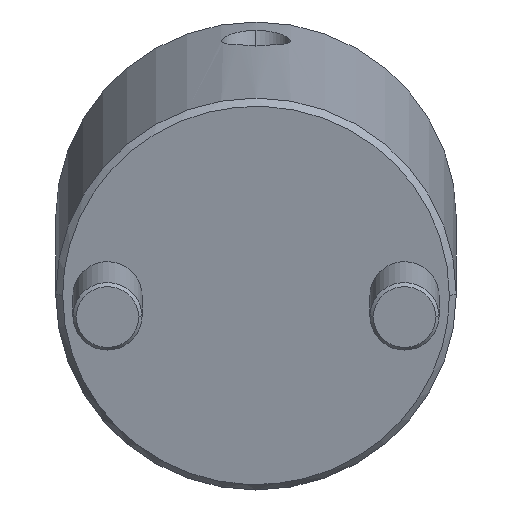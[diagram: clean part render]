
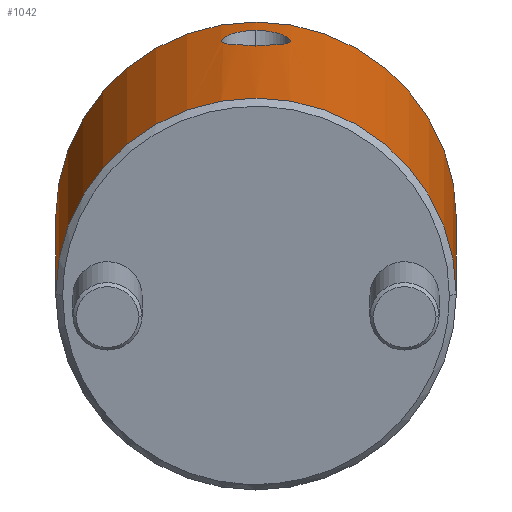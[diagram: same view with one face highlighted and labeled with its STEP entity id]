
A CAD part, front view. The second image highlights one B-rep face of the part: STEP entity #1042.
In plain terms, the highlighted cylindrical face has radius 29 mm (diameter 58 mm), a partial arc.
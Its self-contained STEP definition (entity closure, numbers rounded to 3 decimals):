
#781=CARTESIAN_POINT('Vertex',(0.,29.,1.)) ;
#784=CARTESIAN_POINT('Axis2P3D Location',(0.,0.,1.)) ;
#788=CARTESIAN_POINT('Vertex',(0.,-29.,1.)) ;
#940=CARTESIAN_POINT('Axis2P3D Location',(0.,0.,-2.75)) ;
#945=CARTESIAN_POINT('Line Origine',(0.,29.,-2.75)) ;
#949=CARTESIAN_POINT('Vertex',(0.,29.,54.)) ;
#952=CARTESIAN_POINT('Axis2P3D Location',(0.,0.,54.)) ;
#956=CARTESIAN_POINT('Vertex',(0.,-29.,54.)) ;
#959=CARTESIAN_POINT('Line Origine',(0.,-29.,-2.75)) ;
#971=CARTESIAN_POINT('Control Point',(29.,0.,48.127)) ;
#972=CARTESIAN_POINT('Control Point',(29.,0.424,48.127)) ;
#973=CARTESIAN_POINT('Control Point',(28.992,0.845,48.08)) ;
#974=CARTESIAN_POINT('Control Point',(28.977,1.265,47.984)) ;
#975=CARTESIAN_POINT('Control Point',(28.943,1.873,47.773)) ;
#976=CARTESIAN_POINT('Control Point',(28.898,2.443,47.461)) ;
#977=CARTESIAN_POINT('Control Point',(28.881,2.629,47.346)) ;
#978=CARTESIAN_POINT('Control Point',(28.847,2.99,47.095)) ;
#979=CARTESIAN_POINT('Control Point',(28.81,3.323,46.804)) ;
#980=CARTESIAN_POINT('Control Point',(28.791,3.482,46.649)) ;
#981=CARTESIAN_POINT('Control Point',(28.714,4.093,45.987)) ;
#982=CARTESIAN_POINT('Control Point',(28.642,4.556,45.204)) ;
#983=CARTESIAN_POINT('Control Point',(28.6,4.804,44.567)) ;
#984=CARTESIAN_POINT('Control Point',(28.557,5.048,43.461)) ;
#985=CARTESIAN_POINT('Control Point',(28.566,4.997,42.347)) ;
#986=CARTESIAN_POINT('Control Point',(28.578,4.929,41.907)) ;
#987=CARTESIAN_POINT('Control Point',(28.618,4.701,41.057)) ;
#988=CARTESIAN_POINT('Control Point',(28.681,4.297,40.277)) ;
#989=CARTESIAN_POINT('Control Point',(28.717,4.054,39.914)) ;
#990=CARTESIAN_POINT('Control Point',(28.774,3.632,39.412)) ;
#991=CARTESIAN_POINT('Control Point',(28.831,3.136,38.988)) ;
#992=CARTESIAN_POINT('Control Point',(28.849,2.962,38.856)) ;
#993=CARTESIAN_POINT('Control Point',(28.893,2.511,38.55)) ;
#994=CARTESIAN_POINT('Control Point',(28.932,2.021,38.307)) ;
#995=CARTESIAN_POINT('Control Point',(28.952,1.717,38.186)) ;
#996=CARTESIAN_POINT('Control Point',(28.979,1.192,38.026)) ;
#997=CARTESIAN_POINT('Control Point',(28.994,0.653,37.938)) ;
#998=CARTESIAN_POINT('Control Point',(28.998,0.437,37.915)) ;
#999=CARTESIAN_POINT('Control Point',(29.,0.219,37.903)) ;
#1000=CARTESIAN_POINT('Control Point',(29.,0.,37.903)) ;
#1001=CARTESIAN_POINT('Vertex',(29.,0.,48.127)) ;
#1003=CARTESIAN_POINT('Vertex',(29.,0.,37.903)) ;
#1007=CARTESIAN_POINT('Control Point',(29.,0.,37.903)) ;
#1008=CARTESIAN_POINT('Control Point',(29.,-0.219,37.903)) ;
#1009=CARTESIAN_POINT('Control Point',(28.998,-0.438,37.915)) ;
#1010=CARTESIAN_POINT('Control Point',(28.994,-0.655,37.939)) ;
#1011=CARTESIAN_POINT('Control Point',(28.979,-1.195,38.027)) ;
#1012=CARTESIAN_POINT('Control Point',(28.952,-1.72,38.187)) ;
#1013=CARTESIAN_POINT('Control Point',(28.932,-2.024,38.308)) ;
#1014=CARTESIAN_POINT('Control Point',(28.893,-2.514,38.551)) ;
#1015=CARTESIAN_POINT('Control Point',(28.849,-2.965,38.858)) ;
#1016=CARTESIAN_POINT('Control Point',(28.83,-3.138,38.99)) ;
#1017=CARTESIAN_POINT('Control Point',(28.774,-3.634,39.414)) ;
#1018=CARTESIAN_POINT('Control Point',(28.717,-4.056,39.917)) ;
#1019=CARTESIAN_POINT('Control Point',(28.681,-4.298,40.28)) ;
#1020=CARTESIAN_POINT('Control Point',(28.617,-4.703,41.06)) ;
#1021=CARTESIAN_POINT('Control Point',(28.578,-4.93,41.91)) ;
#1022=CARTESIAN_POINT('Control Point',(28.566,-4.997,42.351)) ;
#1023=CARTESIAN_POINT('Control Point',(28.557,-5.048,43.464)) ;
#1024=CARTESIAN_POINT('Control Point',(28.6,-4.803,44.57)) ;
#1025=CARTESIAN_POINT('Control Point',(28.643,-4.555,45.207)) ;
#1026=CARTESIAN_POINT('Control Point',(28.714,-4.091,45.99)) ;
#1027=CARTESIAN_POINT('Control Point',(28.791,-3.479,46.652)) ;
#1028=CARTESIAN_POINT('Control Point',(28.81,-3.321,46.806)) ;
#1029=CARTESIAN_POINT('Control Point',(28.847,-2.987,47.096)) ;
#1030=CARTESIAN_POINT('Control Point',(28.882,-2.627,47.348)) ;
#1031=CARTESIAN_POINT('Control Point',(28.898,-2.44,47.463)) ;
#1032=CARTESIAN_POINT('Control Point',(28.943,-1.871,47.774)) ;
#1033=CARTESIAN_POINT('Control Point',(28.977,-1.263,47.985)) ;
#1034=CARTESIAN_POINT('Control Point',(28.992,-0.844,48.08)) ;
#1035=CARTESIAN_POINT('Control Point',(29.,-0.423,48.127)) ;
#1036=CARTESIAN_POINT('Control Point',(29.,0.,48.127)) ;
#785=DIRECTION('Axis2P3D Direction',(0.,0.,1.)) ;
#941=DIRECTION('Axis2P3D Direction',(0.,-0.,1.)) ;
#942=DIRECTION('Axis2P3D XDirection',(0.,-1.,0.)) ;
#946=DIRECTION('Vector Direction',(0.,0.,1.)) ;
#953=DIRECTION('Axis2P3D Direction',(0.,-0.,1.)) ;
#960=DIRECTION('Vector Direction',(0.,0.,1.)) ;
#786=AXIS2_PLACEMENT_3D('Circle Axis2P3D',#784,#785,$) ;
#943=AXIS2_PLACEMENT_3D('Cylinder Axis2P3D',#940,#941,#942) ;
#954=AXIS2_PLACEMENT_3D('Circle Axis2P3D',#952,#953,$) ;
#965=ORIENTED_EDGE('',*,*,#951,.F.) ;
#966=ORIENTED_EDGE('',*,*,#958,.T.) ;
#967=ORIENTED_EDGE('',*,*,#963,.T.) ;
#968=ORIENTED_EDGE('',*,*,#790,.F.) ;
#1039=ORIENTED_EDGE('',*,*,#1005,.T.) ;
#1040=ORIENTED_EDGE('',*,*,#1037,.T.) ;
#1041=FACE_BOUND('',#1038,.T.) ;
#947=VECTOR('Line Direction',#946,1.) ;
#961=VECTOR('Line Direction',#960,1.) ;
#1042=ADVANCED_FACE('MANIFOLD_SOLID_BREP #1148',(#969,#1041),#944,.T.) ;
#970=B_SPLINE_CURVE_WITH_KNOTS('',5,(#971,#972,#973,#974,#975,#976,#977,#978,#979,#980,#981,#982,#983,#984,#985,#986,#987,#988,#989,#990,#991,#992,#993,#994,#995,#996,#997,#998,#999,#1000),.UNSPECIFIED.,.F.,.U.,(6,3,3,3,3,3,3,3,3,6),(0.,3.069,4.614,6.171,10.888,13.996,17.094,18.642,20.97,22.519),.UNSPECIFIED.) ;
#1006=B_SPLINE_CURVE_WITH_KNOTS('',5,(#1007,#1008,#1009,#1010,#1011,#1012,#1013,#1014,#1015,#1016,#1017,#1018,#1019,#1020,#1021,#1022,#1023,#1024,#1025,#1026,#1027,#1028,#1029,#1030,#1031,#1032,#1033,#1034,#1035,#1036),.UNSPECIFIED.,.F.,.U.,(6,3,3,3,3,3,3,3,3,6),(0.,1.554,3.881,5.43,8.528,11.636,16.353,17.909,19.454,22.519),.UNSPECIFIED.) ;
#787=CIRCLE('generated circle',#786,29.) ;
#955=CIRCLE('generated circle',#954,29.) ;
#944=CYLINDRICAL_SURFACE('generated cylinder',#943,29.) ;
#790=EDGE_CURVE('',#782,#789,#787,.F.) ;
#951=EDGE_CURVE('',#950,#782,#948,.F.) ;
#958=EDGE_CURVE('',#950,#957,#955,.F.) ;
#963=EDGE_CURVE('',#957,#789,#962,.F.) ;
#1005=EDGE_CURVE('',#1002,#1004,#970,.T.) ;
#1037=EDGE_CURVE('',#1004,#1002,#1006,.T.) ;
#964=EDGE_LOOP('',(#965,#966,#967,#968)) ;
#1038=EDGE_LOOP('',(#1039,#1040)) ;
#969=FACE_OUTER_BOUND('',#964,.T.) ;
#948=LINE('Line',#945,#947) ;
#962=LINE('Line',#959,#961) ;
#782=VERTEX_POINT('',#781) ;
#789=VERTEX_POINT('',#788) ;
#950=VERTEX_POINT('',#949) ;
#957=VERTEX_POINT('',#956) ;
#1002=VERTEX_POINT('',#1001) ;
#1004=VERTEX_POINT('',#1003) ;
